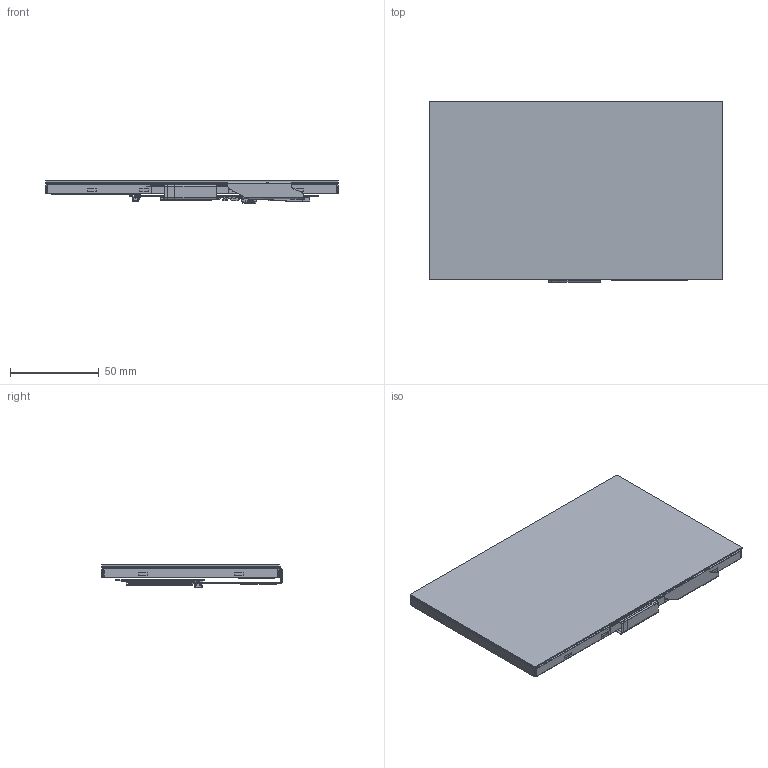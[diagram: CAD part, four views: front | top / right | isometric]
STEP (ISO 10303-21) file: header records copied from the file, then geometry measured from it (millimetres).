
FILE_DESCRIPTION(('STEP AP214'),'1');
FILE_NAME('LCD.7.LVDS.1.stp','2025-06-02T08:40:32',(' '),(' '),'Spatial InterOp 3D',' ',' ');
FILE_SCHEMA(('AUTOMOTIVE_DESIGN { 1 0 10303 214 1 1 1 1 }'));
Length unit declared in the file: metre
Products named in the file (188): PRT0001_2_ASM; PRT0001_2_1; PRT0001_2_2; PRT0001_2_3; PRT0001_2_4; PRT0001_2_5; PRT0001_2_6; PRT0001_2_7; PRT0001_2_8; PRT0001_2_9; PRT0001_2_10; PRT0001_2_11; PRT0001_2_12; PRT0001_2_13; PRT0001_2_14; PRT0001_2_15; PRT0001_2_16; PRT0001_2_17; PRT0001_2_18; BT070L1060CS0I1AD-A; ADP-LVDS2LVDS1_rev110_mounted; fs_lqs4025; Core; Contact; Glue; FS_L_LQS4025; COMPONENTS; fs_lqs4025-1; FS_L_LQS4025-1; fs_wlcsp4_0p5_1x12; Array; Body; FS_WLCSP4_0P5_1X1; FS_C0805; _3f__3f__3f__3f__3f__3f__3f__3f__3f__3f_2; FS_C0805-1; FS_C0805-2; FS_J_0P5_40POS_4-1734839-0; Volumenk_5c_X_5c_F6rper1; FS_DO214AC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
Assembly tree (251 placements, depth 8):
  LCD.7.LVDS.1
    B_LCD_25+ADP-LVDS2LVDS1_rev110_mounted
      ADP-LVDS2LVDS1_rev110_mounted
        BT070L1060CS0I1AD-A
          PRT0001_2_ASM
            PRT0001_2_1
            PRT0001_2_2
            PRT0001_2_3
            PRT0001_2_4
            PRT0001_2_5
            PRT0001_2_6
            PRT0001_2_7
            PRT0001_2_8
            PRT0001_2_9
            PRT0001_2_10
            PRT0001_2_11
            PRT0001_2_12
            PRT0001_2_13
            PRT0001_2_14
            PRT0001_2_15
            PRT0001_2_16
            PRT0001_2_17
            PRT0001_2_18
        ADP-LVDS2LVDS1_rev110
          COMPONENTS
            FS_L_LQS4025
              fs_lqs4025
                Core
                Contact  x2
                Glue
            FS_L_LQS4025-1
              fs_lqs4025-1
                Core
                Contact  x2
                Glue
            FS_WLCSP4_0P5_1X1
              fs_wlcsp4_0p5_1x12
                Array
                Body
            FS_C0805
              _3f__3f__3f__3f__3f__3f__3f__3f__3f__3f_2
            FS_C0805-1
              _3f__3f__3f__3f__3f__3f__3f__3f__3f__3f_2
            FS_C0805-2
              _3f__3f__3f__3f__3f__3f__3f__3f__3f__3f_2
            FS_J_0P5_40POS_4-1734839-0
              Volumenk_5c_X_5c_F6rper1
            FS_DO214AC
              Volumenk_5c_X_5c_F6rper1-0
            FS_DO214AC-1
              Volumenk_5c_X_5c_F6rper1-0
            FS_QFN16_0P5_3X3
              fs_qfn16_0p5_3x32
                Component1
                Component2
                Component3
                Component4
                Component5
                Component6
                Component7
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Bounding box: 165 x 101.58 x 12.67 mm (x, y, z)
Volume: 126412.5 mm3; surface area: 319695.1 mm2
Topology: 169 solids, 169 shells, 8570 faces, 22997 edges, 14683 vertices
Faces by surface type: plane 6754, cylinder 1466, sphere 187, extrusion 74, cone 69, torus 14, bspline 6
Full cylindrical faces by diameter (mm): 0.12 x1, 0.203 x2, 0.22 x1, 0.25 x1, 0.356 x2, 0.457 x1, 0.5 x5, 0.66 x2, 0.8 x2, 1.5 x4, 5 x8
Entity records: 335310 total; most frequent: CARTESIAN_POINT 36907, ORIENTED_EDGE 33868, DIRECTION 31703, PRESENTATION_STYLE_ASSIGNMENT 23462, COLOUR_RGB 23462, STYLED_ITEM 23113, CURVE_STYLE 17283, DRAUGHTING_PRE_DEFINED_CURVE_FONT 17283
